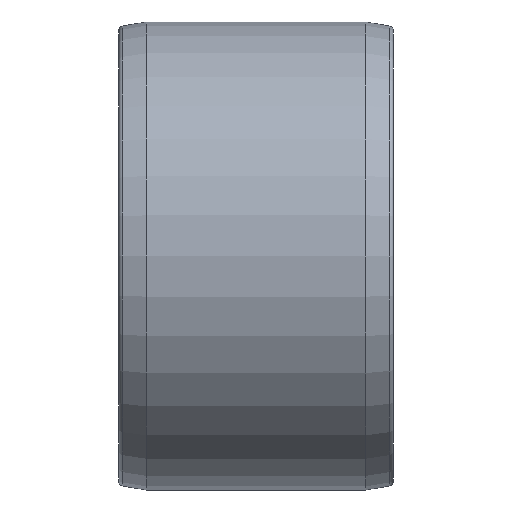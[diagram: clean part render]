
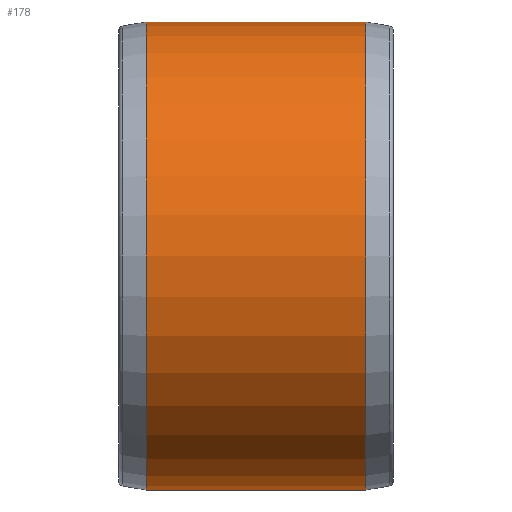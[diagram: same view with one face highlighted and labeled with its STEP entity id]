
A CAD part, front view. The second image highlights one B-rep face of the part: STEP entity #178.
In plain terms, the highlighted cylindrical face has radius 37.5 mm (diameter 75 mm), a full revolution.
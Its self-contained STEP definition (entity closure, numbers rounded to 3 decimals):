
#20=CYLINDRICAL_SURFACE('',#210,37.5);
#38=FACE_BOUND('',#82,.T.);
#53=FACE_OUTER_BOUND('',#81,.T.);
#81=EDGE_LOOP('',(#156));
#82=EDGE_LOOP('',(#157));
#92=CIRCLE('',#196,37.5);
#98=CIRCLE('',#207,37.5);
#107=VERTEX_POINT('',#296);
#113=VERTEX_POINT('',#313);
#122=EDGE_CURVE('',#107,#107,#92,.T.);
#128=EDGE_CURVE('',#113,#113,#98,.T.);
#156=ORIENTED_EDGE('',*,*,#122,.F.);
#157=ORIENTED_EDGE('',*,*,#128,.F.);
#178=ADVANCED_FACE('',(#53,#38),#20,.T.);
#196=AXIS2_PLACEMENT_3D('',#297,#242,#243);
#207=AXIS2_PLACEMENT_3D('',#314,#264,#265);
#210=AXIS2_PLACEMENT_3D('',#318,#270,#271);
#242=DIRECTION('center_axis',(1.,0.,0.));
#243=DIRECTION('ref_axis',(0.,0.,-1.));
#264=DIRECTION('center_axis',(-1.,0.,0.));
#265=DIRECTION('ref_axis',(0.,-1.,0.));
#270=DIRECTION('center_axis',(1.,0.,0.));
#271=DIRECTION('ref_axis',(0.,1.,0.));
#296=CARTESIAN_POINT('',(-4.4,37.5,0.));
#297=CARTESIAN_POINT('Origin',(-4.4,0.,0.));
#313=CARTESIAN_POINT('',(-39.6,37.5,0.));
#314=CARTESIAN_POINT('Origin',(-39.6,0.,0.));
#318=CARTESIAN_POINT('Origin',(-24.2,0.,0.));
